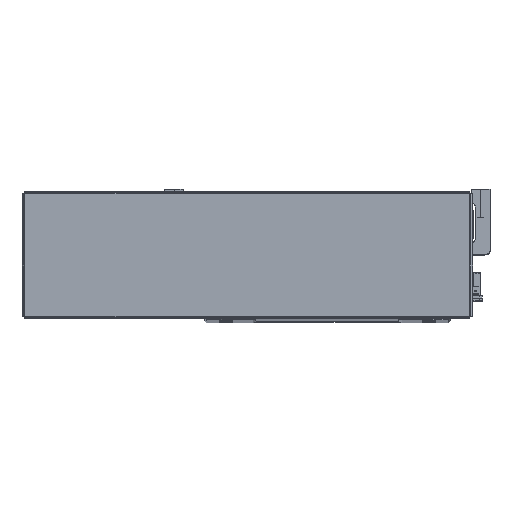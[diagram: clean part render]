
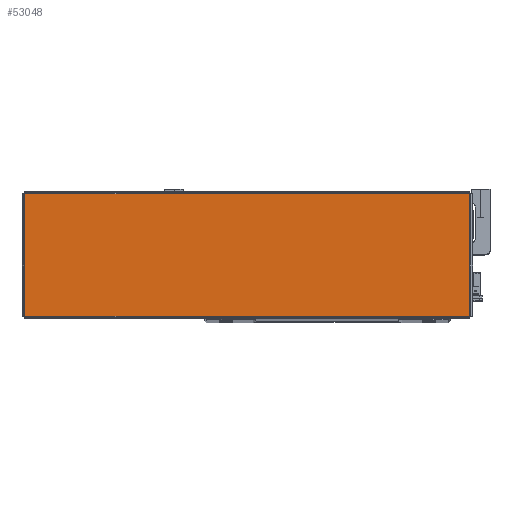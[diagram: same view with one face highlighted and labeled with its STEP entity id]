
A CAD part, top view. The second image highlights one B-rep face of the part: STEP entity #53048.
In plain terms, the highlighted planar face has unit normal (0, 0, 1) as drawn and (0, -1, 0) by its records, which use the part's own axes.
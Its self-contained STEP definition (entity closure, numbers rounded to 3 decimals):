
#9988 = CARTESIAN_POINT ( 'NONE',  ( 0., -1.2, 0. ) ) ;
#10039 = PLANE ( 'NONE',  #36458 ) ;
#10070 = DIRECTION ( 'NONE',  ( 0., 1., 0. ) ) ;
#10078 = DIRECTION ( 'NONE',  ( 0., 0., 1. ) ) ;
#10501 = CARTESIAN_POINT ( 'NONE',  ( -154.013, -1.2, 42.293 ) ) ;
#10524 = DIRECTION ( 'NONE',  ( 0., 0., 1. ) ) ;
#10525 = CARTESIAN_POINT ( 'NONE',  ( 154.013, -1.2, -42.293 ) ) ;
#10532 = DIRECTION ( 'NONE',  ( 0., 0., -1. ) ) ;
#10679 = DIRECTION ( 'NONE',  ( -1., 0., 0. ) ) ;
#10716 = CARTESIAN_POINT ( 'NONE',  ( 154.043, -1.2, 42.263 ) ) ;
#11635 = LINE ( 'NONE', #13039, #11636 ) ;
#11636 = VECTOR ( 'NONE', #13978, 1000. ) ;
#11690 = VECTOR ( 'NONE', #10532, 1000. ) ;
#11700 = LINE ( 'NONE', #10501, #11690 ) ;
#11703 = VECTOR ( 'NONE', #10524, 1000. ) ;
#11704 = LINE ( 'NONE', #10525, #11703 ) ;
#11754 = LINE ( 'NONE', #10716, #11788 ) ;
#11788 = VECTOR ( 'NONE', #10679, 1000. ) ;
#13039 = CARTESIAN_POINT ( 'NONE',  ( -154.043, -1.2, -42.263 ) ) ;
#13978 = DIRECTION ( 'NONE',  ( 1., 0., 0. ) ) ;
#19246 = EDGE_CURVE ( 'NONE', #26684, #26650, #11635, .T. ) ;
#19261 = EDGE_CURVE ( 'NONE', #26675, #26684, #11700, .T. ) ;
#19265 = EDGE_CURVE ( 'NONE', #26650, #26622, #11704, .T. ) ;
#19324 = EDGE_CURVE ( 'NONE', #26622, #26675, #11754, .T. ) ;
#20105 = ORIENTED_EDGE ( 'NONE', *, *, #19324, .T. ) ;
#20139 = ORIENTED_EDGE ( 'NONE', *, *, #19265, .T. ) ;
#20141 = ORIENTED_EDGE ( 'NONE', *, *, #19261, .T. ) ;
#20153 = ORIENTED_EDGE ( 'NONE', *, *, #19246, .T. ) ;
#25112 = CARTESIAN_POINT ( 'NONE',  ( 154.013, -1.2, -42.263 ) ) ;
#25121 = CARTESIAN_POINT ( 'NONE',  ( 154.013, -1.2, 42.263 ) ) ;
#25152 = CARTESIAN_POINT ( 'NONE',  ( -154.013, -1.2, 42.263 ) ) ;
#25153 = CARTESIAN_POINT ( 'NONE',  ( -154.013, -1.2, -42.263 ) ) ;
#26622 = VERTEX_POINT ( 'NONE', #25121 ) ;
#26650 = VERTEX_POINT ( 'NONE', #25112 ) ;
#26675 = VERTEX_POINT ( 'NONE', #25152 ) ;
#26684 = VERTEX_POINT ( 'NONE', #25153 ) ;
#27117 = EDGE_LOOP ( 'NONE', ( #20139, #20105, #20141, #20153 ) ) ;
#28119 = FACE_OUTER_BOUND ( 'NONE', #27117, .T. ) ;
#36458 = AXIS2_PLACEMENT_3D ( 'NONE', #9988, #10070, #10078 ) ;
#53048 = ADVANCED_FACE ( 'NONE', ( #28119 ), #10039, .F. ) ;
